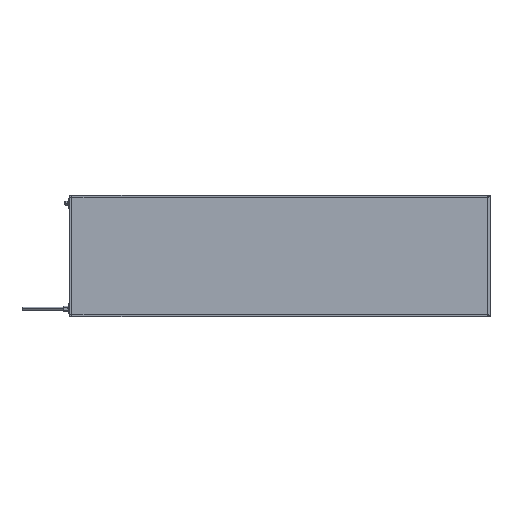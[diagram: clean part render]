
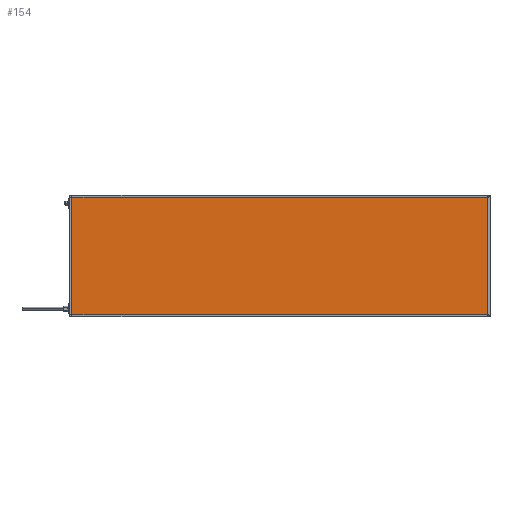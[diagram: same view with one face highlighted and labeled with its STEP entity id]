
A CAD part, top view. The second image highlights one B-rep face of the part: STEP entity #154.
In plain terms, the highlighted planar face has unit normal (0, 0, 1).
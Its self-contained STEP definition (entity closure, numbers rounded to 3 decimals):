
#154 = ADVANCED_FACE ( 'NONE', ( #14355 ), #12809, .F. ) ;
#224 = CARTESIAN_POINT ( 'NONE',  ( 0., 0., 41.85 ) ) ;
#831 = CARTESIAN_POINT ( 'NONE',  ( 1396., 4., 41.85 ) ) ;
#1541 = VERTEX_POINT ( 'NONE', #831 ) ;
#1800 = VERTEX_POINT ( 'NONE', #14136 ) ;
#2327 = EDGE_LOOP ( 'NONE', ( #11915, #16848, #10649, #17933 ) ) ;
#3027 = CARTESIAN_POINT ( 'NONE',  ( 0., 396., 41.85 ) ) ;
#4667 = CARTESIAN_POINT ( 'NONE',  ( 1396., 0., 41.85 ) ) ;
#4967 = EDGE_CURVE ( 'NONE', #1800, #15889, #5765, .T. ) ;
#5034 = EDGE_CURVE ( 'NONE', #1541, #1800, #6396, .T. ) ;
#5672 = DIRECTION ( 'NONE',  ( -1., 0., 0. ) ) ;
#5765 = LINE ( 'NONE', #3027, #14109 ) ;
#6396 = LINE ( 'NONE', #4667, #14688 ) ;
#7447 = DIRECTION ( 'NONE',  ( 0., -1., 0. ) ) ;
#8809 = CARTESIAN_POINT ( 'NONE',  ( 4., 0., 41.85 ) ) ;
#9893 = CARTESIAN_POINT ( 'NONE',  ( 4., 4., 41.85 ) ) ;
#10269 = LINE ( 'NONE', #8809, #17726 ) ;
#10310 = DIRECTION ( 'NONE',  ( 0., 1., 0. ) ) ;
#10403 = EDGE_CURVE ( 'NONE', #15889, #11494, #10269, .T. ) ;
#10649 = ORIENTED_EDGE ( 'NONE', *, *, #10403, .T. ) ;
#10775 = CARTESIAN_POINT ( 'NONE',  ( 4., 396., 41.85 ) ) ;
#11494 = VERTEX_POINT ( 'NONE', #9893 ) ;
#11533 = DIRECTION ( 'NONE',  ( 0., 0., -1. ) ) ;
#11644 = VECTOR ( 'NONE', #12781, 1000. ) ;
#11915 = ORIENTED_EDGE ( 'NONE', *, *, #5034, .T. ) ;
#12064 = AXIS2_PLACEMENT_3D ( 'NONE', #224, #11533, #17193 ) ;
#12781 = DIRECTION ( 'NONE',  ( 1., 0., 0. ) ) ;
#12809 = PLANE ( 'NONE',  #12064 ) ;
#12872 = LINE ( 'NONE', #17076, #11644 ) ;
#14109 = VECTOR ( 'NONE', #5672, 1000. ) ;
#14136 = CARTESIAN_POINT ( 'NONE',  ( 1396., 396., 41.85 ) ) ;
#14355 = FACE_OUTER_BOUND ( 'NONE', #2327, .T. ) ;
#14688 = VECTOR ( 'NONE', #10310, 1000. ) ;
#14857 = EDGE_CURVE ( 'NONE', #11494, #1541, #12872, .T. ) ;
#15889 = VERTEX_POINT ( 'NONE', #10775 ) ;
#16848 = ORIENTED_EDGE ( 'NONE', *, *, #4967, .T. ) ;
#17076 = CARTESIAN_POINT ( 'NONE',  ( 0., 4., 41.85 ) ) ;
#17193 = DIRECTION ( 'NONE',  ( -1., 0., 0. ) ) ;
#17726 = VECTOR ( 'NONE', #7447, 1000. ) ;
#17933 = ORIENTED_EDGE ( 'NONE', *, *, #14857, .T. ) ;
